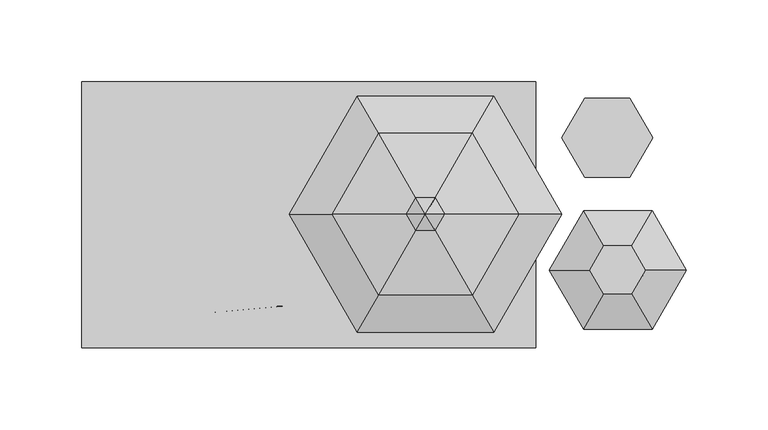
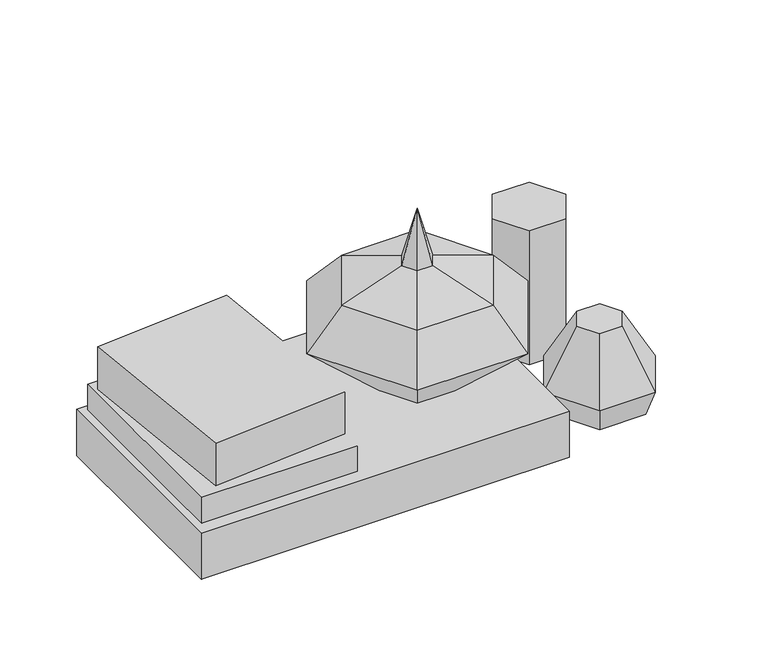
"""IFC4 building model written with IfcOpenShell, lengths in millimetres: geographic element geometry, Enscape AssetDefinition - Decoration Collection 001 : Enscape AssetDefinition - Decoration Collection 001."""

from ifc_helpers import new_model, si_unit, origin, place, context, project, spatial, triangles, source, transform, mapped, element, save


def geographic_element_9156fac0(model_context):
    return source(origin(), model_context, "Body", "Tessellation", [
        triangles([(190.4051112, -34.210262, 0.0), (173.0093525, -64.339087, 0.0), (176.5386247, -70.4513547, 19.9579774), (138.2188525, -64.339087, 0.0), (176.5386247, 2.031881, 19.9579774), (134.6906158, 2.031881, 19.9579774), (173.0093525, -4.0803994, 0.0), (138.2188525, -4.0803994, 0.0), (120.8241203, -34.210262, 0.0), (113.7655759, -34.210262, 19.9579774), (138.6233609, -34.210262, 63.9605763), (147.1189815, -19.4952422, 63.9605763), (164.1102409, -19.4952422, 63.9605763), (147.1189815, -48.9242394, 63.9605763), (164.1102409, -48.9242394, 63.9605763), (134.6906158, -70.4513547, 19.9579774), (197.4626382, -34.210262, 19.9579774), (172.6058706, -34.210262, 63.9605763), (163.0443902, 22.6699235, -0.0010399), (176.905699, 46.679182, 106.7080579), (135.3207645, 22.6699235, -0.0010399), (176.905699, 46.679182, -0.0010399), (163.0443902, 70.6884496, -0.0010399), (135.3207645, 70.6884496, -0.0010399), (121.4584293, 46.679182, -0.0010399), (121.4584293, 46.679182, 106.7080579), (163.0443902, 22.6699235, 106.7080579), (135.3207645, 70.6884496, 106.7080579), (135.3207645, 22.6699235, 106.7080579), (163.0443902, 70.6884496, 106.7080579), (23.9323146, -24.4293614, 36.8920523), (66.2451389, 0.0, 36.8920523), (52.1405174, -24.4293614, 36.8920523), (121.3845966, 0.0, 85.7445391), (79.7102509, -72.181686, 85.7445391), (9.8276898, 0.0, 36.8920523), (23.9323146, 24.4293614, 36.8920523), (52.1405174, 24.4293614, 36.8920523), (-3.6374202, 72.181686, 85.7445391), (-45.3117736, 0.0, 85.7445391), (-19.119854, 0.0, 115.2244894), (79.7102509, 72.181686, 85.7445391), (9.458541, 49.4992815, 115.2244894), (26.3624602, 0.0, 130.9055362), (32.1991747, -10.1094903, 130.9055362), (43.8736529, 10.1094903, 130.9055362), (32.1991747, 10.1094903, 130.9055362), (66.6142842, 49.4992815, 115.2244894), (66.6142842, -49.4992815, 115.2244894), (95.1926816, 0.0, 115.2244894), (49.7103696, 0.0, 130.9055362), (38.0369315, 0.0, 172.6131739), (43.8736529, -10.1094903, 130.9055362), (9.458541, -49.4992815, 115.2244894), (-3.6374202, -72.181686, 85.7445391), (-172.1327527, -81.7306944, -0.0010399), (105.358322, 80.8915287, -0.0010399), (-172.1327527, -81.7306944, 36.7828679), (105.358322, -81.7306944, -0.0010399), (105.358322, -81.7306944, 36.7828679), (105.358322, 80.8915287, 36.7828679), (-172.1327527, 80.8915287, -0.0010399), (-172.1327527, 80.8915287, 36.7828679), (-166.2014105, -71.8967607, 36.7735094), (-166.2014105, 76.7653725, 36.7735094), (-48.6913094, -71.8967607, 36.7735094), (-48.6913094, 76.7653725, 36.7735094), (-166.2014105, 76.7653725, 57.3865953), (-48.6913094, -71.8967607, 57.3865953), (-166.2014105, -71.8967607, 57.3865953), (-48.6913094, 76.7653725, 57.3865953), (-49.4264889, -56.4819176, 57.5644097), (-151.7962669, -65.4371668, 57.5644097), (-61.1113634, 77.0918878, 57.3637179), (-49.4306492, -56.4320069, 91.1725963), (-163.4852972, 68.1865493, 91.1725963), (-61.1155238, 77.1428385, 90.9718999), (-163.481155, 68.1366386, 57.3637179), (-151.8004272, -65.3872561, 91.1725963)], [[78, 79, 76], [79, 77, 76], [79, 75, 77], [72, 77, 75], [74, 78, 76], [72, 74, 77], [74, 76, 77], [78, 73, 79], [73, 72, 75], [73, 78, 74], [73, 75, 79], [73, 74, 72], [65, 70, 68], [70, 71, 68], [70, 69, 71], [66, 71, 69], [67, 65, 68], [66, 67, 71], [67, 68, 71], [65, 64, 70], [64, 66, 69], [64, 65, 67], [64, 69, 70], [64, 67, 66], [62, 58, 63], [58, 61, 63], [58, 60, 61], [59, 61, 60], [57, 62, 63], [59, 57, 61], [57, 63, 61], [62, 56, 58], [56, 59, 60], [56, 62, 57], [56, 60, 58], [56, 57, 59], [55, 35, 49], [55, 49, 54], [54, 49, 53], [49, 51, 53], [54, 53, 45], [53, 51, 52], [45, 53, 52], [51, 46, 52], [49, 50, 51], [50, 46, 51], [35, 50, 49], [35, 34, 50], [50, 48, 46], [34, 48, 50], [46, 47, 52], [48, 47, 46], [44, 45, 52], [47, 44, 52], [41, 54, 45], [41, 45, 44], [43, 41, 44], [48, 43, 47], [43, 44, 47], [34, 42, 48], [42, 43, 48], [42, 39, 43], [39, 41, 43], [38, 39, 42], [40, 55, 54], [39, 40, 41], [40, 54, 41], [36, 55, 40], [37, 36, 40], [38, 37, 39], [37, 40, 39], [32, 38, 42], [37, 38, 32], [32, 42, 34], [36, 31, 55], [31, 37, 32], [31, 36, 37], [31, 35, 55], [33, 32, 34], [31, 33, 35], [33, 34, 35], [33, 31, 32], [23, 28, 30], [20, 30, 28], [20, 28, 29], [27, 20, 29], [28, 26, 29], [25, 29, 26], [24, 25, 26], [23, 24, 28], [24, 26, 28], [22, 23, 30], [24, 23, 22], [22, 30, 20], [25, 21, 29], [21, 24, 22], [21, 25, 24], [21, 27, 29], [19, 22, 20], [21, 19, 27], [19, 20, 27], [19, 21, 22], [16, 3, 15], [3, 17, 18], [3, 18, 15], [17, 13, 18], [16, 15, 14], [15, 18, 14], [18, 12, 14], [12, 11, 14], [18, 13, 12], [17, 5, 13], [5, 12, 13], [5, 6, 12], [6, 11, 12], [7, 6, 5], [10, 16, 14], [6, 10, 11], [10, 14, 11], [9, 16, 10], [8, 9, 10], [7, 8, 6], [8, 10, 6], [1, 7, 5], [8, 7, 1], [1, 5, 17], [9, 4, 16], [4, 8, 1], [4, 9, 8], [4, 3, 16], [2, 1, 17], [4, 2, 3], [2, 17, 3], [2, 4, 1]]),
    ])


if __name__ == "__main__":
    model = new_model("IFC4")
    model_context = context("Model", 3, world=origin())
    ifc_project = project(units=[si_unit("LENGTHUNIT", "METRE", prefix="MILLI")], contexts=[model_context])
    site = spatial("IfcSite", under=ifc_project)
    building = spatial("IfcBuilding", under=site)
    placement = place(None, origin())
    geographic_element_shape = geographic_element_9156fac0(model_context)
    element("IfcGeographicElement", 1, ObjectType="Enscape AssetDefinition - Decoration Collection 001 : Enscape AssetDefinition - Decoration Collection 001", at=placement, inside=building, context=model_context, shape_type="MappedRepresentation", body=[
        mapped(geographic_element_shape, transform((0.0, 0.0, 0.0), x_axis=(1.0, 0.0, 0.0), y_axis=(0.0, 1.0, 0.0), z_axis=(0.0, 0.0, 1.0))),
    ])
    save(model, "model.ifc")
